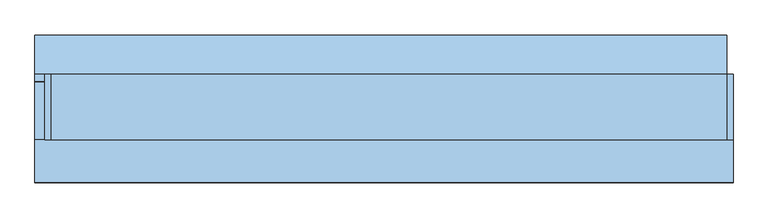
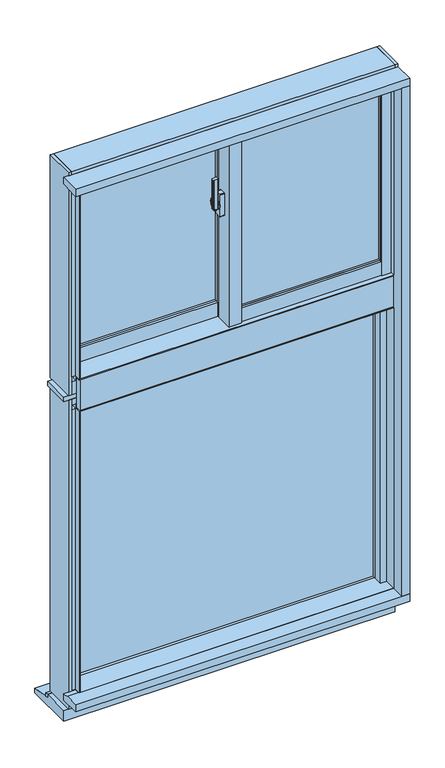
"""IFC4 building model written with IfcOpenShell, lengths in millimetres: window geometry, FNSⅡ100R_非防火_RC枠_段窓_分解無目 : 隠蔽突出排煙/FIX."""

import ifcopenshell
import ifcopenshell.guid

model = None  # the IFC model being written
_history = None  # IfcOwnerHistory: only IFC2X3 demands one
_inside = {}  # id of a spatial element -> (the spatial element, [elements in it])
_under = {}  # id of a project, library or spatial element -> (it, [spatial elements below it])
_declared = {}  # id of a project -> (the project, [libraries it declares])
_typed = {}  # id of a type object -> (the type object, [elements of that type])
_made_of = {}  # id of a material, layer set ... -> (it, [elements and type objects made of it])


def new_model(schema):
    """Start an empty IFC model of exactly this schema.

    Asked for "IFC4X3", IfcOpenShell would pick the latest addendum, in which some entities
    have other attributes; the version numbers below select the first issue.
    IFC2X3 requires an IfcOwnerHistory on every rooted entity: one is made here for all.
    """
    global model, _history
    if schema == "IFC4X3":
        model = ifcopenshell.file(schema_version=(4, 3, 0, 0))
    else:
        model = ifcopenshell.file(schema=schema)
    _inside.clear()
    _under.clear()
    _declared.clear()
    _typed.clear()
    _made_of.clear()
    _history = None
    if model.schema == "IFC2X3":
        org = make("IfcOrganization", Name="unknown")
        user = make(
            "IfcPersonAndOrganization",
            ThePerson=make("IfcPerson", FamilyName="unknown"),
            TheOrganization=org,
        )
        app = make(
            "IfcApplication",
            ApplicationDeveloper=org,
            Version="unknown",
            ApplicationFullName="unknown",
            ApplicationIdentifier="unknown",
        )
        _history = make(
            "IfcOwnerHistory",
            OwningUser=user,
            OwningApplication=app,
            ChangeAction="ADDED",
            CreationDate=0,
        )
    return model


def make(cls, **values):
    """One entity of the class cls with the attributes given. An attribute that is None is left unset."""
    return model.create_entity(
        cls, **{name: value for name, value in values.items() if value is not None}
    )


def rooted(cls, **values):
    """An entity with a GlobalId (a new one), such as an element, a storey or a relation."""
    return make(cls, GlobalId=ifcopenshell.guid.new(), OwnerHistory=_history, **values)


def si_unit(unit_type, name, prefix=None):
    """IfcSIUnit, for example si_unit("LENGTHUNIT", "METRE", prefix="MILLI")."""
    return make("IfcSIUnit", UnitType=unit_type, Prefix=prefix, Name=name)


def assignment(units):
    """IfcUnitAssignment: the units of a project."""
    return None if units is None else make("IfcUnitAssignment", Units=units)


def point(xyz):
    """IfcCartesianPoint."""
    return None if xyz is None else make("IfcCartesianPoint", Coordinates=xyz)


def direction(xyz):
    """IfcDirection."""
    return None if xyz is None else make("IfcDirection", DirectionRatios=xyz)


def frame(location, z_axis=None, x_axis=None):
    """IfcAxis2Placement3D, a coordinate frame: its origin and axes. An axis left out is left unset."""
    return make(
        "IfcAxis2Placement3D",
        Location=point(location),
        Axis=direction(z_axis),
        RefDirection=direction(x_axis),
    )


def frame_2d(location, x_axis=None):
    """IfcAxis2Placement2D, a coordinate frame in the plane: its origin and x axis."""
    return make(
        "IfcAxis2Placement2D", Location=point(location), RefDirection=direction(x_axis)
    )


def origin():
    """The frame at (0, 0, 0) with its axes left unset."""
    return frame((0.0, 0.0, 0.0))


def place(relative_to, where):
    """IfcLocalPlacement: puts the frame where relative to a parent placement (None: the world)."""
    return make(
        "IfcLocalPlacement", PlacementRelTo=relative_to, RelativePlacement=where
    )


def context(
    kind, dimensions, precision=None, world=None, true_north=None, identifier=None
):
    """IfcGeometricRepresentationContext, for example the 3D "Model" context."""
    return make(
        "IfcGeometricRepresentationContext",
        ContextIdentifier=identifier,
        ContextType=kind,
        CoordinateSpaceDimension=dimensions,
        Precision=precision,
        WorldCoordinateSystem=world,
        TrueNorth=true_north,
    )


def project(units=None, contexts=None):
    """IfcProject with its units and contexts."""
    return rooted(
        "IfcProject",
        Name="project",
        RepresentationContexts=contexts,
        UnitsInContext=assignment(units),
    )


def spatial(cls, under=None, at=None, **own):
    """A site, building, storey or space (cls), placed at a placement, below another one or the project."""
    s = rooted(cls, ObjectPlacement=at, **own)
    if under is not None:
        _under.setdefault(under.id(), (under, []))[1].append(s)
    return s


def polyline(points):
    """IfcPolyline through the points."""
    return make("IfcPolyline", Points=[point(p) for p in points])


def circle_curve(where, radius):
    """IfcCircle in the frame where."""
    return make("IfcCircle", Position=where, Radius=radius)


def trimmed(basis, trim1, trim2, sense, master):
    """IfcTrimmedCurve: the piece of a basis curve between two trims."""
    return make(
        "IfcTrimmedCurve",
        BasisCurve=basis,
        Trim1=trim1,
        Trim2=trim2,
        SenseAgreement=sense,
        MasterRepresentation=master,
    )


def segment(curve, same_sense, transition):
    """IfcCompositeCurveSegment."""
    return make(
        "IfcCompositeCurveSegment",
        Transition=transition,
        SameSense=same_sense,
        ParentCurve=curve,
    )


def composite_curve(segments, self_intersect=None):
    """IfcCompositeCurve: segments joined end to end."""
    return make("IfcCompositeCurve", Segments=segments, SelfIntersect=self_intersect)


def outline(outer, holes=None, kind="AREA"):
    """IfcArbitraryClosedProfileDef: a profile drawn as a closed curve; with holes, ...WithVoids."""
    if holes is None:
        return make("IfcArbitraryClosedProfileDef", ProfileType=kind, OuterCurve=outer)
    return make(
        "IfcArbitraryProfileDefWithVoids",
        ProfileType=kind,
        OuterCurve=outer,
        InnerCurves=holes,
    )


def extrude(swept, where, along, depth):
    """IfcExtrudedAreaSolid: the profile swept, set in the frame where, extruded along a direction by depth."""
    return make(
        "IfcExtrudedAreaSolid",
        SweptArea=swept,
        Position=where,
        ExtrudedDirection=direction(along),
        Depth=depth,
    )


def faces_of(points, faces, orient=None, outer=None):
    """IfcFace entities. A face is a list of loops; a loop is a list of indices into points, from 0.

    orient and outer hold one flag for each loop. By default every Orientation is true, the
    first loop of a face is its IfcFaceOuterBound and the others are IfcFaceBound.
    """
    made = []
    for i, loops in enumerate(faces):
        bounds = []
        for j, loop in enumerate(loops):
            is_outer = j == 0 if outer is None else outer[i][j]
            bounds.append(
                make(
                    "IfcFaceOuterBound" if is_outer else "IfcFaceBound",
                    Bound=make("IfcPolyLoop", Polygon=[points[k] for k in loop]),
                    Orientation=True if orient is None else orient[i][j],
                )
            )
        made.append(make("IfcFace", Bounds=bounds))
    return made


def faceted_brep(points, faces, orient=None, outer=None, voids=None):
    """IfcFacetedBrep: a solid bounded by flat faces; with voids (closed shells), ...WithVoids."""
    shared = [point(p) for p in points]
    hull = make("IfcClosedShell", CfsFaces=faces_of(shared, faces, orient, outer))
    if voids is None:
        return make("IfcFacetedBrep", Outer=hull)
    return make(
        "IfcFacetedBrepWithVoids",
        Outer=hull,
        Voids=[
            make(cls, CfsFaces=faces_of(shared, fs, o, b)) for cls, fs, o, b in voids
        ],
    )


def shape(context_of_items, identifier, shape_type, items):
    """IfcShapeRepresentation: the items that make up one representation, for example the "Body"."""
    return make(
        "IfcShapeRepresentation",
        ContextOfItems=context_of_items,
        RepresentationIdentifier=identifier,
        RepresentationType=shape_type,
        Items=items,
    )


def source(mapping_origin, context_of_items, identifier, shape_type, items):
    """IfcRepresentationMap: a shape defined once, which mapped items show again and again."""
    return make(
        "IfcRepresentationMap",
        MappingOrigin=mapping_origin,
        MappedRepresentation=shape(context_of_items, identifier, shape_type, items),
    )


def transform(
    local_origin,
    x_axis=None,
    y_axis=None,
    z_axis=None,
    scale=None,
    scale2=None,
    scale3=None,
    uniform=True,
):
    """IfcCartesianTransformationOperator3D, or its non-uniform kind. x_axis, y_axis, z_axis: its Axis1, 2, 3."""
    if uniform:
        return make(
            "IfcCartesianTransformationOperator3D",
            Axis1=direction(x_axis),
            Axis2=direction(y_axis),
            LocalOrigin=point(local_origin),
            Scale=scale,
            Axis3=direction(z_axis),
        )
    return make(
        "IfcCartesianTransformationOperator3DnonUniform",
        Axis1=direction(x_axis),
        Axis2=direction(y_axis),
        LocalOrigin=point(local_origin),
        Scale=scale,
        Axis3=direction(z_axis),
        Scale2=scale2,
        Scale3=scale3,
    )


def mapped(mapping_source, mapping_target):
    """IfcMappedItem: shows the shape of a source again, moved by a transform."""
    return make(
        "IfcMappedItem", MappingSource=mapping_source, MappingTarget=mapping_target
    )


def made_of(thing, what):
    """Note that an element or type object is made of a material, layer set ...; save() writes the relation."""
    if what is not None:
        _made_of.setdefault(what.id(), (what, []))[1].append(thing)
    return thing


def element(
    cls,
    number,
    at=None,
    inside=None,
    cuts=None,
    type_object=None,
    material=None,
    context=None,
    identifier="Body",
    shape_type=None,
    held_by="IfcProductDefinitionShape",
    body=None,
    shapes=None,
    **own,
):
    """One element of the class cls, such as IfcWall. Its Tag is "e" and its number.

    at: its placement. inside: the storey or other place that contains it. cuts: it is an
    opening in that element (IfcRelVoidsElement). A single representation is given by context,
    identifier, shape_type and body (its items); several are given by shapes. held_by: the class
    of the entity that holds the representations. save() writes the other relations.
    """
    e = rooted(cls, Tag="e%d" % number, ObjectPlacement=at, **own)
    if body is not None:
        shapes = [shape(context, identifier, shape_type, body)]
    if shapes is not None:
        e.Representation = make(held_by, Representations=shapes)
    if inside is not None:
        _inside.setdefault(inside.id(), (inside, []))[1].append(e)
    if cuts is not None:
        rooted(
            "IfcRelVoidsElement", RelatingBuildingElement=cuts, RelatedOpeningElement=e
        )
    if type_object is not None:
        _typed.setdefault(type_object.id(), (type_object, []))[1].append(e)
    return made_of(e, material)


def aggregate(whole, parts):
    """IfcRelAggregates: a whole, such as a stair, and the parts it consists of."""
    return rooted("IfcRelAggregates", RelatingObject=whole, RelatedObjects=parts)


def save(model, path):
    """Write the relations noted so far, then the file.

    IfcRelAggregates (storeys below a building ...), IfcRelContainedInSpatialStructure (elements
    in a storey), IfcRelDefinesByType, IfcRelAssociatesMaterial and IfcRelDeclares: one each for
    every whole, place, type object, material and project.
    """
    for whole, parts in _under.values():
        aggregate(whole, parts)
    for where, things in _inside.values():
        rooted(
            "IfcRelContainedInSpatialStructure",
            RelatedElements=things,
            RelatingStructure=where,
        )
    for kind, things in _typed.values():
        rooted("IfcRelDefinesByType", RelatedObjects=things, RelatingType=kind)
    for what, things in _made_of.values():
        rooted("IfcRelAssociatesMaterial", RelatedObjects=things, RelatingMaterial=what)
    for by, libraries in _declared.values():
        rooted("IfcRelDeclares", RelatingContext=by, RelatedDefinitions=libraries)
    model.write(path)


def plane_surface(at):
    """IfcPlane: the flat surface through the origin of the frame at, square to its z axis."""
    return make("IfcPlane", Position=at)


def cylinder_surface(at, radius):
    """IfcCylindricalSurface: all points at the distance radius from the z axis of the frame at."""
    return make("IfcCylindricalSurface", Position=at, Radius=radius)


def revolved_surface(curve, axis_point, axis_direction):
    """IfcSurfaceOfRevolution: the curve turned about the line through axis_point along axis_direction."""
    return make(
        "IfcSurfaceOfRevolution",
        SweptCurve=make("IfcArbitraryOpenProfileDef", ProfileType="CURVE", Curve=curve),
        AxisPosition=make("IfcAxis1Placement", Location=point(axis_point), Axis=direction(axis_direction)),
    )


def advanced_brep(points, edges, surfaces, faces):
    """IfcAdvancedBrep: a solid bounded by faces that lie on surfaces and meet in shared edges.

    An edge is (start, end): straight between two places in points (the first is 0);
    or (start, end, curve); or (start, end, curve, False) where it runs against its curve.
    A face is (place in surfaces, loops), or (place, loops, False) where it looks against
    its surface's normal. A loop lists edges by number (the first is 1), with a minus sign
    where the edge is run from its end to its start. The first loop is the outer one.
    """
    corners = [point(p) for p in points]
    vertices = [make("IfcVertexPoint", VertexGeometry=c) for c in corners]
    made = []
    for start, end, *more in edges:
        made.append(
            make(
                "IfcEdgeCurve",
                EdgeStart=vertices[start],
                EdgeEnd=vertices[end],
                EdgeGeometry=more[0] if more else make("IfcPolyline", Points=[corners[start], corners[end]]),
                SameSense=more[1] if len(more) > 1 else True,
            )
        )
    hull = []
    for where, loops, *sense in faces:
        bounds = []
        for j, loop in enumerate(loops):
            ring = [make("IfcOrientedEdge", EdgeElement=made[abs(k) - 1], Orientation=k > 0) for k in loop]
            bounds.append(
                make(
                    "IfcFaceOuterBound" if j == 0 else "IfcFaceBound",
                    Bound=make("IfcEdgeLoop", EdgeList=ring),
                    Orientation=True,
                )
            )
        hull.append(make("IfcAdvancedFace", Bounds=bounds, FaceSurface=surfaces[where], SameSense=sense[0] if sense else True))
    return make("IfcAdvancedBrep", Outer=make("IfcClosedShell", CfsFaces=hull))


def window_b31afdd3(model_context):
    return source(origin(), model_context, "Body", "SolidModel", [
        extrude(outline(composite_curve([segment(polyline([(-39.0, -20.4), (-39.0, -28.6)]), True, "CONTINUOUS"), segment(trimmed(circle_curve(frame_2d((-41.0, -28.6)), 2.0), [point((-39.0, -28.6))], [point((-41.3606557, -30.5672131))], False, "CARTESIAN"), True, "CONTINUOUS"), segment(polyline([(-41.3606557, -30.5672131), (-52.3606557, -28.5505464)]), True, "CONTINUOUS"), segment(trimmed(circle_curve(frame_2d((-52.0, -26.5833333)), 2.0), [point((-52.3606557, -28.5505464))], [point((-54.0, -26.5833333))], False, "CARTESIAN"), True, "CONTINUOUS"), segment(polyline([(-54.0, -26.5833333), (-54.0, -22.4166667)]), True, "CONTINUOUS"), segment(trimmed(circle_curve(frame_2d((-52.0, -22.4166667)), 2.0), [point((-54.0, -22.4166667))], [point((-52.3606557, -20.4494536))], False, "CARTESIAN"), True, "CONTINUOUS"), segment(polyline([(-52.3606557, -20.4494536), (-41.3606557, -18.4327869)]), True, "CONTINUOUS"), segment(trimmed(circle_curve(frame_2d((-41.0, -20.4)), 2.0), [point((-41.3606557, -18.4327869))], [point((-39.0, -20.4))], False, "CARTESIAN"), True, "CONTINUOUS")], self_intersect=False)), frame((0.0, 0.0, 2345.0), z_axis=(0.0, 0.0, 1.0), x_axis=(1.0, 0.0, 0.0)), (0.0, 0.0, 1.0), 100.0),
        advanced_brep(
        [(-37.5, -16.1765715, 2376.7333311), (-45.5, -16.1765715, 2376.7333311), (-45.5, -16.5648001, 2375.2844424), (-39.0, -16.5648001, 2375.2844424), (-39.0, -18.3765334, 2368.5229616), (-37.5, -18.3765334, 2368.5229616), (-39.0, -18.3533883, 2334.3190372), (-45.5, -18.3533883, 2334.3190372), (-45.5, -18.092916, 2332.8418256), (-37.5, -18.092916, 2332.8418256), (-37.5, -19.5689255, 2341.2126915), (-39.0, -19.5689255, 2341.2126915)],
        [
            (0, 1),
            (1, 2),
            (2, 3),
            (3, 4),
            (4, 5),
            (5, 0),
            (6, 7),
            (7, 8),
            (8, 9),
            (9, 10),
            (10, 11),
            (11, 6),
            (0, 9, circle_curve(frame((-37.5, -22.0, 2355.0), z_axis=(-1.0, 0.0, 0.0), x_axis=(0.0, 0.25881904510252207, 0.965925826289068)), 22.5)),
            (8, 1, circle_curve(frame((-45.5, -22.0, 2355.0), z_axis=(1.0, 0.0, 0.0), x_axis=(0.0, 0.25881904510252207, 0.965925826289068)), 22.5)),
            (7, 2, circle_curve(frame((-45.5, -22.0, 2355.0), z_axis=(1.0, 0.0, 0.0), x_axis=(0.0, 0.25881904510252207, 0.965925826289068)), 21.0)),
            (6, 3, circle_curve(frame((-39.0, -22.0, 2355.0), z_axis=(1.0, 0.0, 0.0), x_axis=(0.0, 0.25881904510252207, 0.965925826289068)), 21.0)),
            (11, 4, circle_curve(frame((-39.0, -22.0, 2355.0), z_axis=(-1.0, 0.0, 0.0), x_axis=(0.0, -1.0, 0.0)), 14.0)),
            (5, 10, circle_curve(frame((-37.5, -22.0, 2355.0), z_axis=(1.0, 0.0, 0.0), x_axis=(0.0, -1.0, 0.0)), 14.0)),
        ],
        [
            plane_surface(frame((-43.5470497, -22.0, 2355.0), z_axis=(0.0, -0.965925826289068, 0.25881904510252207), x_axis=(0.0, 0.25881904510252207, 0.965925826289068))),
            plane_surface(frame((-43.5470497, -22.0, 2355.0), z_axis=(0.0, -0.9848077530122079, -0.17364817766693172), x_axis=(0.0, 0.17364817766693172, -0.9848077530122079))),
            cylinder_surface(frame((-43.5470497, -22.0, 2355.0), z_axis=(-1.0, 0.0, 0.0), x_axis=(0.0, 0.25881904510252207, 0.965925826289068)), 22.5),
            plane_surface(frame((-45.5, -22.0, 2355.0), z_axis=(-1.0, 0.0, 0.0), x_axis=(0.0, 0.25881904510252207, 0.965925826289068))),
            revolved_surface(polyline([(-45.5, -16.564800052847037, 2375.2844423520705), (-39.0, -16.564800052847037, 2375.2844423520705)]), (-43.5470497, -22.0, 2355.0), (-1.0, 0.0, 0.0)),
            plane_surface(frame((-39.0, -22.0, 2355.0), z_axis=(-1.0, 0.0, 0.0), x_axis=(0.0, 0.25881904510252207, 0.965925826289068))),
            plane_surface(frame((-37.5, -22.0, 2355.0), z_axis=(1.0, 0.0, 0.0), x_axis=(0.0, 0.25881904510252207, 0.965925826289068))),
            cylinder_surface(frame((-37.5, -22.0, 2355.0), z_axis=(-1.0, 0.0, 0.0), x_axis=(0.0, -1.0, 0.0)), 14.0),
        ],
        [
            (0, [[1, 2, 3, 4, 5, 6]]),
            (1, [[7, 8, 9, 10, 11, 12]]),
            (2, [[-1, 13, -9, 14]]),
            (3, [[-2, -14, -8, 15]]),
            (4, [[-3, -15, -7, 16]]),
            (5, [[-16, -12, 17, -4]]),
            (6, [[-13, -6, 18, -10]]),
            (7, [[-17, -11, -18, -5]]),
        ],
    ),
        extrude(outline(composite_curve([segment(trimmed(circle_curve(frame_2d((-22.0, 2355.0)), 11.5), [point((-10.5, 2355.0))], [point((-33.5, 2355.0))], False, "CARTESIAN"), True, "CONTINUOUS"), segment(trimmed(circle_curve(frame_2d((-22.0, 2355.0)), 11.5), [point((-33.5, 2355.0))], [point((-10.5, 2355.0))], False, "CARTESIAN"), True, "CONTINUOUS")], self_intersect=False)), frame((-37.5, 0.0, 0.0), z_axis=(1.0, 0.0, 0.0), x_axis=(0.0, 1.0, 0.0)), (0.0, 0.0, 1.0), 2.5),
        extrude(outline(composite_curve([segment(polyline([(-31.0, 2392.5), (-13.0, 2392.5)]), True, "CONTINUOUS"), segment(trimmed(circle_curve(frame_2d((-13.0, 2390.5)), 2.0), [point((-13.0, 2392.5))], [point((-11.0, 2390.5))], False, "CARTESIAN"), True, "CONTINUOUS"), segment(polyline([(-11.0, 2390.5), (-11.0, 2319.5)]), True, "CONTINUOUS"), segment(trimmed(circle_curve(frame_2d((-13.0, 2319.5)), 2.0), [point((-11.0, 2319.5))], [point((-13.0, 2317.5))], False, "CARTESIAN"), True, "CONTINUOUS"), segment(polyline([(-13.0, 2317.5), (-31.0, 2317.5)]), True, "CONTINUOUS"), segment(trimmed(circle_curve(frame_2d((-31.0, 2319.5)), 2.0), [point((-31.0, 2317.5))], [point((-33.0, 2319.5))], False, "CARTESIAN"), True, "CONTINUOUS"), segment(polyline([(-33.0, 2319.5), (-33.0, 2390.5)]), True, "CONTINUOUS"), segment(trimmed(circle_curve(frame_2d((-31.0, 2390.5)), 2.0), [point((-33.0, 2390.5))], [point((-31.0, 2392.5))], False, "CARTESIAN"), True, "CONTINUOUS")], self_intersect=False)), frame((-35.0, 0.0, 0.0), z_axis=(1.0, 0.0, 0.0), x_axis=(0.0, 1.0, 0.0)), (0.0, 0.0, 1.0), 15.0),
        extrude(outline(polyline([(20.0, -31.0), (468.0, -31.0), (468.0, -37.0), (20.0, -37.0), (20.0, -31.0)])), frame((0.0, 0.0, 2003.0), z_axis=(0.0, 0.0, 1.0), x_axis=(1.0, 0.0, 0.0)), (0.0, 0.0, 1.0), 567.0),
        extrude(outline(polyline([(20.0, -13.0), (468.0, -13.0), (468.0, -19.0), (20.0, -19.0), (20.0, -13.0)])), frame((0.0, 0.0, 2003.0), z_axis=(0.0, 0.0, 1.0), x_axis=(1.0, 0.0, 0.0)), (0.0, 0.0, 1.0), 567.0),
        extrude(outline(polyline([(-468.0, 27.0), (-20.0, 27.0), (-20.0, 21.0), (-468.0, 21.0), (-468.0, 27.0)])), frame((0.0, 0.0, 2003.0), z_axis=(0.0, 0.0, 1.0), x_axis=(1.0, 0.0, 0.0)), (0.0, 0.0, 1.0), 567.0),
        extrude(outline(polyline([(-468.0, 45.0), (-20.0, 45.0), (-20.0, 39.0), (-468.0, 39.0), (-468.0, 45.0)])), frame((0.0, 0.0, 2003.0), z_axis=(0.0, 0.0, 1.0), x_axis=(1.0, 0.0, 0.0)), (0.0, 0.0, 1.0), 567.0),
        faceted_brep([(-489.5, 24.0, 2610.0), (-500.0, 24.0, 2610.0), (-500.0, 24.0, 1915.0), (-468.0, 24.0, 1915.0), (-468.0, 24.0, 1955.0), (-489.5, 24.0, 1955.0), (-489.5, 11.0, 2610.0), (-489.5, 11.0, 1955.0), (-468.0, 11.0, 2610.0), (-468.0, 11.0, 1955.0), (-500.0, 53.0, 2610.0), (-468.0, 53.0, 2610.0), (-468.0, 53.0, 1915.0), (-500.0, 53.0, 1915.0)], [[[0, 1, 2, 3, 4, 5]], [[6, 0, 5, 7]], [[8, 6, 7, 9]], [[10, 11, 12, 13]], [[2, 1, 10, 13]], [[5, 4, 9, 7]], [[11, 8, 9, 4, 3, 12]], [[1, 0, 6, 8, 11, 10]], [[3, 2, 13, 12]]]),
        faceted_brep([(-1.8, 10.5, 2610.0), (-20.0, 10.5, 2610.0), (-20.0, 10.5, 1955.0), (-1.8, 10.5, 1955.0), (-1.8, -1.9, 2610.0), (-1.8, -1.9, 1955.0), (20.0, -1.9, 2610.0), (20.0, -1.9, 1955.0), (-20.0, 53.0, 2610.0), (20.0, 53.0, 2610.0), (20.0, 53.0, 1915.0), (-20.0, 53.0, 1915.0), (-20.0, 24.0, 1955.0), (20.0, 24.0, 1955.0), (20.0, 24.0, 1915.0), (-20.0, 24.0, 1915.0)], [[[0, 1, 2, 3]], [[4, 0, 3, 5]], [[6, 4, 5, 7]], [[8, 9, 10, 11]], [[12, 13, 7, 5, 3, 2]], [[1, 0, 4, 6, 9, 8]], [[11, 10, 14, 15]], [[9, 6, 7, 13, 14, 10]], [[1, 8, 11, 15, 12, 2]], [[13, 12, 15, 14]]]),
        extrude(outline(polyline([(-20.0, -1.9), (-15.0, -1.9), (-15.0, -47.0), (15.0, -47.0), (15.0, -43.0), (20.0, -43.0), (20.0, -55.0), (-20.0, -55.0), (-20.0, -1.9)])), frame((0.0, 0.0, 1955.0), z_axis=(0.0, 0.0, 1.0), x_axis=(1.0, 0.0, 0.0)), (0.0, 0.0, 1.0), 655.0),
        extrude(outline(polyline([(-15.0, -1.9), (20.0, -1.9), (20.0, -43.0), (15.0, -43.0), (15.0, -47.0), (-15.0, -47.0), (-15.0, -1.9)])), frame((0.0, 0.0, 1955.0), z_axis=(0.0, 0.0, 1.0), x_axis=(1.0, 0.0, 0.0)), (0.0, 0.0, 1.0), 655.0),
        extrude(outline(polyline([(468.0, -55.0), (468.0, -47.0), (489.5, -47.0), (489.5, -34.0), (497.0, -34.0), (497.0, -55.0), (468.0, -55.0)])), frame((0.0, 0.0, 1958.0), z_axis=(0.0, 0.0, 1.0), x_axis=(1.0, 0.0, 0.0)), (0.0, 0.0, 1.0), 652.0),
        extrude(outline(polyline([(468.0, -5.0), (500.0, -5.0), (500.0, -34.0), (489.5, -34.0), (489.5, -47.0), (468.0, -47.0), (468.0, -5.0)])), frame((0.0, 0.0, 1955.0), z_axis=(0.0, 0.0, 1.0), x_axis=(1.0, 0.0, 0.0)), (0.0, 0.0, 1.0), 655.0),
        extrude(outline(polyline([(-1.85, 10.5), (-1.85, 3.0), (-20.0, 3.0), (-20.0, 10.5), (-1.85, 10.5)])), frame((0.0, 0.0, 1955.0), z_axis=(0.0, 0.0, 1.0), x_axis=(1.0, 0.0, 0.0)), (0.0, 0.0, 1.0), 655.0),
        extrude(outline(polyline([(-497.0, 24.0), (-489.5, 24.0), (-489.5, 11.0), (-468.0, 11.0), (-468.0, 3.0), (-497.0, 3.0), (-497.0, 24.0)])), frame((0.0, 0.0, 1955.0), z_axis=(0.0, 0.0, 1.0), x_axis=(1.0, 0.0, 0.0)), (0.0, 0.0, 1.0), 655.0),
        extrude(outline(polyline([(-53.0, 1958.0), (-53.0, 2003.0), (-45.0, 2003.0), (-45.0, 1980.5), (-34.0, 1980.5), (-34.0, 1958.0), (-53.0, 1958.0)])), frame((20.0, 0.0, 0.0), z_axis=(1.0, 0.0, 0.0), x_axis=(0.0, 1.0, 0.0)), (0.0, 0.0, 1.0), 448.0),
        extrude(outline(polyline([(-5.0, 1955.0), (-34.0, 1955.0), (-34.0, 1980.5), (-45.0, 1980.5), (-45.0, 2003.0), (-5.0, 2003.0), (-5.0, 1955.0)])), frame((20.0, 0.0, 0.0), z_axis=(1.0, 0.0, 0.0), x_axis=(0.0, 1.0, 0.0)), (0.0, 0.0, 1.0), 448.0),
        extrude(outline(polyline([(5.0, 2003.0), (13.0, 2003.0), (13.0, 1980.5), (24.0, 1980.5), (24.0, 1955.0), (5.0, 1955.0), (5.0, 2003.0)])), frame((-468.0, 0.0, 0.0), z_axis=(1.0, 0.0, 0.0), x_axis=(0.0, 1.0, 0.0)), (0.0, 0.0, 1.0), 448.0),
        extrude(outline(polyline([(53.0, 1915.0), (24.0, 1915.0), (24.0, 1980.5), (13.0, 1980.5), (13.0, 2003.0), (53.0, 2003.0), (53.0, 1915.0)])), frame((-468.0, 0.0, 0.0), z_axis=(1.0, 0.0, 0.0), x_axis=(0.0, 1.0, 0.0)), (0.0, 0.0, 1.0), 448.0),
        extrude(outline(polyline([(-32.0, 2590.5), (-45.0, 2590.5), (-45.0, 2570.0), (-53.0, 2570.0), (-53.0, 2610.0), (-32.0, 2610.0), (-32.0, 2590.5)])), frame((20.0, 0.0, 0.0), z_axis=(1.0, 0.0, 0.0), x_axis=(0.0, 1.0, 0.0)), (0.0, 0.0, 1.0), 448.0),
        extrude(outline(polyline([(-5.0, 2610.0), (-5.0, 2570.0), (-45.0, 2570.0), (-45.0, 2590.5), (-32.0, 2590.5), (-32.0, 2610.0), (-5.0, 2610.0)])), frame((20.0, 0.0, 0.0), z_axis=(1.0, 0.0, 0.0), x_axis=(0.0, 1.0, 0.0)), (0.0, 0.0, 1.0), 448.0),
        extrude(outline(polyline([(26.0, 2590.5), (13.0, 2590.5), (13.0, 2570.0), (5.0, 2570.0), (5.0, 2610.0), (26.0, 2610.0), (26.0, 2590.5)])), frame((-468.0, 0.0, 0.0), z_axis=(1.0, 0.0, 0.0), x_axis=(0.0, 1.0, 0.0)), (0.0, 0.0, 1.0), 448.0),
        extrude(outline(polyline([(53.0, 2610.0), (53.0, 2570.0), (13.0, 2570.0), (13.0, 2590.5), (26.0, 2590.5), (26.0, 2610.0), (53.0, 2610.0)])), frame((-468.0, 0.0, 0.0), z_axis=(1.0, 0.0, 0.0), x_axis=(0.0, 1.0, 0.0)), (0.0, 0.0, 1.0), 448.0),
        extrude(outline(polyline([(-15.0, 25.3), (-15.0, -23.1), (-500.0, -23.1), (-500.0, 25.3), (-15.0, 25.3)])), frame((0.0, 0.0, 2610.0), z_axis=(0.0, 0.0, 1.0), x_axis=(1.0, 0.0, 0.0)), (0.0, 0.0, 1.0), 25.0),
        faceted_brep([(515.0, 25.3, 2635.0), (515.0, -45.0, 2635.0), (-515.0, -45.0, 2635.0), (-515.0, 25.3, 2635.0), (-15.0, 25.3, 2635.0), (-15.0, -23.1, 2635.0), (500.0, -23.1, 2635.0), (500.0, 25.3, 2635.0), (-515.0, 25.3, 2610.0), (-15.0, 25.3, 2610.0), (515.0, 25.3, 2610.0), (500.0, 25.3, 2610.0), (515.0, 55.0, 2610.0), (500.0, -23.1, 2610.0), (-15.0, -23.1, 2610.0), (-515.0, 55.0, 2610.0), (515.0, 55.0, 2645.0), (-515.0, 55.0, 2645.0), (515.0, -45.0, 2645.0), (-515.0, -45.0, 2645.0)], [[[0, 1, 2, 3, 4, 5, 6, 7]], [[3, 8, 9, 4]], [[10, 0, 7, 11]], [[12, 10, 11, 13, 14, 9, 8, 15]], [[16, 12, 15, 17]], [[18, 16, 17, 19]], [[1, 18, 19, 2]], [[12, 16, 18, 1, 0, 10]], [[15, 8, 3, 2, 19, 17]], [[6, 13, 11, 7]], [[9, 14, 5, 4]], [[13, 6, 5, 14]]]),
        extrude(outline(polyline([(-23.1, 2610.0), (-65.0, 2610.0), (-65.0, 2613.0), (-45.0, 2613.0), (-45.0, 2635.0), (-23.1, 2635.0), (-23.1, 2610.0)])), frame((-500.0, 0.0, 0.0), z_axis=(1.0, 0.0, 0.0), x_axis=(0.0, 1.0, 0.0)), (0.0, 0.0, 1.0), 1000.0),
        faceted_brep([(500.0, -65.0, 1955.0), (503.0, -65.0, 1955.0), (503.0, -65.0, 2613.0), (500.0, -65.0, 2613.0), (500.0, -40.5, 2630.0), (515.0, -40.5, 2630.0), (515.0, -40.5, 1955.0), (500.0, -40.5, 1955.0), (500.0, -45.0, 2613.0), (500.0, -45.0, 2630.0), (503.0, -45.0, 2613.0), (515.0, -45.0, 2630.0), (515.0, -45.0, 1955.0), (503.0, -45.0, 1955.0)], [[[0, 1, 2, 3]], [[4, 5, 6, 7]], [[7, 0, 3, 8, 9, 4]], [[10, 8, 3, 2]], [[9, 11, 5, 4]], [[0, 7, 6, 12, 13, 1]], [[1, 13, 10, 2]], [[9, 8, 10, 13, 12, 11]], [[5, 11, 12, 6]]]),
        faceted_brep([(-515.0, 21.0, 2630.0), (-500.0, 21.0, 2630.0), (-500.0, 21.0, 1955.0), (-515.0, 21.0, 1955.0), (-515.0, -45.0, 2630.0), (-500.0, -45.0, 2630.0), (-515.0, -45.0, 1955.0), (-500.0, -65.0, 1955.0), (-503.0, -65.0, 1955.0), (-503.0, -45.0, 1955.0), (-503.0, -45.0, 2613.0), (-500.0, -45.0, 2613.0), (-503.0, -65.0, 2613.0), (-500.0, -65.0, 2613.0)], [[[0, 1, 2, 3]], [[4, 5, 1, 0]], [[6, 3, 2, 7, 8, 9]], [[6, 9, 10, 11, 5, 4]], [[9, 8, 12, 10]], [[8, 7, 13, 12]], [[7, 2, 1, 5, 11, 13]], [[6, 4, 0, 3]], [[11, 10, 12, 13]]]),
        faceted_brep([(-525.0, 55.0, 1895.0), (-515.0, 55.0, 1895.0), (-515.0, -45.0, 1895.0), (-525.0, -45.0, 1895.0), (-515.0, -45.0, 2645.0), (-525.0, -45.0, 2645.0), (-500.0, 55.0, 1904.0), (-500.0, 21.0, 1904.0), (-515.0, 21.0, 1904.0), (-515.0, 55.0, 1904.0), (-500.0, 21.0, 2610.0), (-515.0, 21.0, 2610.0), (-525.0, 55.0, 2645.0), (-515.0, 55.0, 2645.0), (-515.0, 55.0, 2610.0), (-500.0, 55.0, 2610.0)], [[[0, 1, 2, 3]], [[4, 5, 3, 2]], [[6, 7, 8, 9]], [[10, 11, 8, 7]], [[12, 5, 4, 13]], [[5, 12, 0, 3]], [[13, 4, 2, 1, 9, 8, 11, 14]], [[12, 13, 14, 15, 6, 9, 1, 0]], [[15, 14, 11, 10]], [[15, 10, 7, 6]]]),
        faceted_brep([(515.0, -45.0, 1895.0), (515.0, 55.0, 1895.0), (525.0, 55.0, 1895.0), (525.0, -45.0, 1895.0), (500.0, -40.5, 1904.0), (500.0, 55.0, 1904.0), (515.0, 55.0, 1904.0), (515.0, -40.5, 1904.0), (515.0, -45.0, 2645.0), (515.0, 55.0, 2645.0), (515.0, 55.0, 2610.0), (515.0, -40.5, 2610.0), (525.0, -45.0, 2645.0), (525.0, 55.0, 2645.0), (500.0, -40.5, 2610.0), (500.0, 55.0, 2610.0)], [[[0, 1, 2, 3]], [[4, 5, 6, 7]], [[8, 9, 10, 11, 7, 6, 1, 0]], [[8, 12, 13, 9]], [[11, 14, 4, 7]], [[14, 15, 5, 4]], [[14, 11, 10, 15]], [[12, 8, 0, 3]], [[13, 12, 3, 2]], [[9, 13, 2, 1, 6, 5, 15, 10]]]),
        faceted_brep([(515.0, 21.0, 1904.0), (515.0, 55.0, 1904.0), (-515.0, 55.0, 1904.0), (-515.0, 21.0, 1904.0), (515.0, -45.0, 1939.0), (515.0, 21.0, 1939.0), (-515.0, 21.0, 1939.0), (-515.0, -45.0, 1939.0), (500.0, -17.75, 1939.0), (500.0, -36.2, 1939.0), (-15.0, -36.2, 1939.0), (-15.0, -17.75, 1939.0), (515.0, 55.0, 1895.0), (515.0, -45.0, 1895.0), (-515.0, -45.0, 1895.0), (-515.0, 55.0, 1895.0), (500.0, -36.2, 1955.0), (500.0, -17.75, 1955.0), (-15.0, -36.2, 1955.0), (-15.0, -17.75, 1955.0)], [[[0, 1, 2, 3]], [[4, 5, 6, 7], [8, 9, 10, 11]], [[5, 0, 3, 6]], [[12, 13, 14, 15]], [[12, 1, 0, 5, 4, 13]], [[15, 14, 7, 6, 3, 2]], [[13, 4, 7, 14]], [[1, 12, 15, 2]], [[16, 9, 8, 17]], [[18, 19, 11, 10]], [[9, 16, 18, 10]], [[17, 8, 11, 19]], [[16, 17, 19, 18]]]),
        faceted_brep([(-503.0, -45.0, 1939.0), (-503.0, -45.0, 1952.0), (-503.0, -65.0, 1952.0), (-503.0, -65.0, 1955.0), (-503.0, -36.2, 1955.0), (-503.0, -36.2, 1939.0), (503.0, -45.0, 1952.0), (503.0, -65.0, 1952.0), (503.0, -65.0, 1955.0), (503.0, -40.5, 1955.0), (500.0, -40.5, 1955.0), (500.0, -36.2, 1955.0), (-15.0, -36.2, 1955.0), (-15.0, 21.0, 1955.0), (-500.0, 21.0, 1955.0), (-500.0, -36.2, 1955.0), (-500.0, -36.2, 1939.0), (500.0, -36.2, 1939.0), (-15.0, -36.2, 1939.0), (503.0, -45.0, 1939.0), (503.0, -40.5, 1939.0), (-500.0, 21.0, 1939.0), (-15.0, 21.0, 1939.0), (500.0, -40.5, 1939.0)], [[[0, 1, 2, 3, 4, 5]], [[6, 7, 2, 1]], [[7, 8, 3, 2]], [[4, 3, 8, 9, 10, 11, 12, 13, 14, 15]], [[5, 4, 15, 16]], [[11, 17, 18, 12]], [[8, 7, 6, 19, 20, 9]], [[19, 6, 1, 0]], [[0, 5, 16, 21, 22, 18, 17, 23, 20, 19]], [[10, 23, 17, 11]], [[23, 10, 9, 20]], [[13, 12, 18, 22]], [[14, 21, 16, 15]], [[13, 22, 21, 14]]]),
        extrude(outline(polyline([(-480.0, 20.6), (480.0, 20.6), (480.0, 14.6), (-480.0, 14.6), (-480.0, 20.6)])), frame((0.0, 0.0, 900.0), z_axis=(0.0, 0.0, 1.0), x_axis=(1.0, 0.0, 0.0)), (0.0, 0.0, 1.0), 925.0),
        extrude(outline(polyline([(-480.0, 38.6), (480.0, 38.6), (480.0, 32.6), (-480.0, 32.6), (-480.0, 38.6)])), frame((0.0, 0.0, 900.0), z_axis=(0.0, 0.0, 1.0), x_axis=(1.0, 0.0, 0.0)), (0.0, 0.0, 1.0), 925.0),
        faceted_brep([(-525.0, 55.0, 1880.0), (-525.0, -45.0, 1880.0), (-515.0, -45.0, 1880.0), (-515.0, 55.0, 1880.0), (-525.0, 55.0, 840.0), (-515.0, 55.0, 840.0), (-515.0, -45.0, 840.0), (-525.0, -45.0, 840.0), (-515.0, 55.0, 900.0), (-515.0, 5.0, 900.0), (-515.0, 5.0, 1825.0), (-515.0, 55.0, 1825.0), (-480.0, 55.0, 1825.0), (-480.0, 55.0, 900.0), (-480.0, 5.0, 1825.0), (-480.0, 5.0, 900.0)], [[[0, 1, 2, 3]], [[4, 5, 6, 7]], [[1, 0, 4, 7]], [[2, 1, 7, 6]], [[3, 2, 6, 5, 8, 9, 10, 11]], [[0, 3, 11, 12, 13, 8, 5, 4]], [[12, 11, 10, 14]], [[13, 15, 9, 8]], [[14, 10, 9, 15]], [[12, 14, 15, 13]]]),
        faceted_brep([(525.0, 55.0, 1880.0), (515.0, 55.0, 1880.0), (515.0, -45.0, 1880.0), (525.0, -45.0, 1880.0), (525.0, 55.0, 840.0), (525.0, -45.0, 840.0), (515.0, -45.0, 840.0), (515.0, 55.0, 840.0), (515.0, 55.0, 900.0), (480.0, 55.0, 900.0), (480.0, 55.0, 1825.0), (515.0, 55.0, 1825.0), (515.0, 5.0, 1825.0), (515.0, 5.0, 900.0), (480.0, 5.0, 1825.0), (480.0, 5.0, 900.0)], [[[0, 1, 2, 3]], [[4, 5, 6, 7]], [[1, 0, 4, 7, 8, 9, 10, 11]], [[2, 1, 11, 12, 13, 8, 7, 6]], [[3, 2, 6, 5]], [[0, 3, 5, 4]], [[11, 10, 14, 12]], [[13, 15, 9, 8]], [[14, 10, 9, 15]], [[12, 14, 15, 13]]]),
        extrude(outline(polyline([(500.0, -65.0), (500.0, -26.5), (480.0, -26.5), (480.0, 5.0), (515.0, 5.0), (515.0, -45.0), (503.0, -45.0), (503.0, -65.0), (500.0, -65.0)])), frame((0.0, 0.0, 900.0), z_axis=(0.0, 0.0, 1.0), x_axis=(1.0, 0.0, 0.0)), (0.0, 0.0, 1.0), 945.0),
        extrude(outline(polyline([(-515.0, -45.0), (-515.0, 5.0), (-480.0, 5.0), (-480.0, -26.5), (-500.0, -26.5), (-500.0, -65.0), (-503.0, -65.0), (-503.0, -45.0), (-515.0, -45.0)])), frame((0.0, 0.0, 900.0), z_axis=(0.0, 0.0, 1.0), x_axis=(1.0, 0.0, 0.0)), (0.0, 0.0, 1.0), 945.0),
        extrude(outline(polyline([(-45.0, 884.0), (-45.0, 897.0), (-65.0, 897.0), (-65.0, 900.0), (5.0, 900.0), (5.0, 884.0), (-45.0, 884.0)])), frame((-503.0, 0.0, 0.0), z_axis=(1.0, 0.0, 0.0), x_axis=(0.0, 1.0, 0.0)), (0.0, 0.0, 1.0), 1006.0),
        extrude(outline(polyline([(55.0, 840.0), (-45.0, 840.0), (-45.0, 884.0), (5.0, 884.0), (5.0, 900.0), (55.0, 900.0), (55.0, 870.0), (36.0, 870.0), (36.0, 850.0), (55.0, 850.0), (55.0, 840.0)])), frame((-515.0, 0.0, 0.0), z_axis=(1.0, 0.0, 0.0), x_axis=(0.0, 1.0, 0.0)), (0.0, 0.0, 1.0), 1030.0),
        extrude(outline(polyline([(5.0, 1822.0), (-29.0, 1822.0), (-29.0, 1845.0), (-65.0, 1845.0), (-65.0, 1848.0), (-45.0, 1848.0), (-45.0, 1860.0), (5.0, 1860.0), (5.0, 1822.0)])), frame((-503.0, 0.0, 0.0), z_axis=(1.0, 0.0, 0.0), x_axis=(0.0, 1.0, 0.0)), (0.0, 0.0, 1.0), 1006.0),
        extrude(outline(polyline([(55.0, 1825.0), (5.0, 1825.0), (5.0, 1860.0), (-45.0, 1860.0), (-45.0, 1880.0), (55.0, 1880.0), (55.0, 1825.0)])), frame((-515.0, 0.0, 0.0), z_axis=(1.0, 0.0, 0.0), x_axis=(0.0, 1.0, 0.0)), (0.0, 0.0, 1.0), 1030.0),
        extrude(outline(polyline([(-110.0, 900.0), (-65.0, 900.0), (-65.0, 897.0), (-45.0, 897.0), (-45.0, 875.0), (-110.0, 875.0), (-110.0, 900.0)])), frame((-540.0, 0.0, 0.0), z_axis=(1.0, 0.0, 0.0), x_axis=(0.0, 1.0, 0.0)), (0.0, 0.0, 1.0), 1065.0),
        extrude(outline(polyline([(45.0, 840.0), (55.0, 840.0), (55.0, 828.4285714), (45.0, 830.0), (45.0, 840.0)])), frame((-540.0, 0.0, 0.0), z_axis=(1.0, 0.0, 0.0), x_axis=(0.0, 1.0, 0.0)), (0.0, 0.0, 1.0), 1055.0),
        extrude(outline(polyline([(-45.0, 804.0), (-45.0, 840.0), (45.0, 840.0), (45.0, 830.0), (115.0, 819.0), (115.0, 804.0), (-45.0, 804.0)])), frame((-540.0, 0.0, 0.0), z_axis=(1.0, 0.0, 0.0), x_axis=(0.0, 1.0, 0.0)), (0.0, 0.0, 1.0), 1055.0),
        extrude(outline(polyline([(500.0, -110.0), (500.0, -65.0), (503.0, -65.0), (503.0, -45.0), (525.0, -45.0), (525.0, -110.0), (500.0, -110.0)])), frame((0.0, 0.0, 900.0), z_axis=(0.0, 0.0, 1.0), x_axis=(1.0, 0.0, 0.0)), (0.0, 0.0, 1.0), 1710.0),
        extrude(outline(polyline([(-110.0, 2635.0), (-45.0, 2635.0), (-45.0, 2613.0), (-65.0, 2613.0), (-65.0, 2610.0), (-110.0, 2610.0), (-110.0, 2635.0)])), frame((-540.0, 0.0, 0.0), z_axis=(1.0, 0.0, 0.0), x_axis=(0.0, 1.0, 0.0)), (0.0, 0.0, 1.0), 1065.0),
        extrude(outline(polyline([(-500.0, -65.0), (-500.0, -45.0), (500.0, -45.0), (500.0, -65.0), (-500.0, -65.0)])), frame((0.0, 0.0, 1848.0), z_axis=(0.0, 0.0, 1.0), x_axis=(1.0, 0.0, 0.0)), (0.0, 0.0, 1.0), 104.0),
        extrude(outline(polyline([(-540.0, -45.0), (-540.0, 43.0), (515.0, 43.0), (515.0, -45.0), (-540.0, -45.0)])), frame((0.0, 0.0, 1880.0), z_axis=(0.0, 0.0, 1.0), x_axis=(1.0, 0.0, 0.0)), (0.0, 0.0, 1.0), 15.0),
    ])


if __name__ == "__main__":
    model = new_model("IFC4")
    model_context = context("Model", 3, world=origin())
    ifc_project = project(units=[si_unit("LENGTHUNIT", "METRE", prefix="MILLI")], contexts=[model_context])
    site = spatial("IfcSite", under=ifc_project)
    building = spatial("IfcBuilding", under=site)
    placement = place(None, origin())
    window_shape = window_b31afdd3(model_context)
    element("IfcWindow", 1, ObjectType="FNSⅡ100R_非防火_RC枠_段窓_分解無目 : 隠蔽突出排煙/FIX", at=placement, inside=building, context=model_context, shape_type="MappedRepresentation", body=[
        mapped(window_shape, transform((0.0, 0.0, 0.0), x_axis=(1.0, 0.0, 0.0), y_axis=(0.0, 1.0, 0.0), z_axis=(0.0, 0.0, 1.0))),
    ])
    save(model, "model.ifc")
